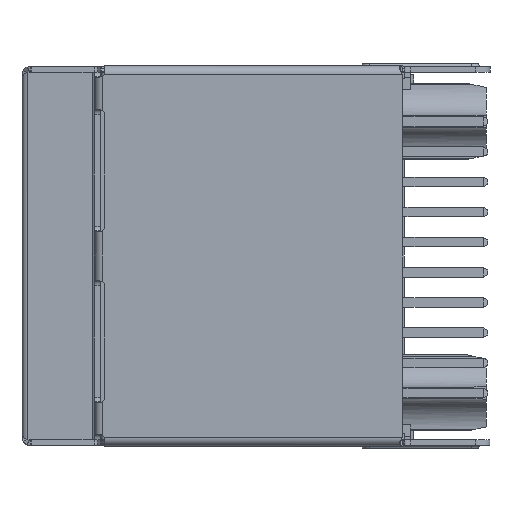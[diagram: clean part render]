
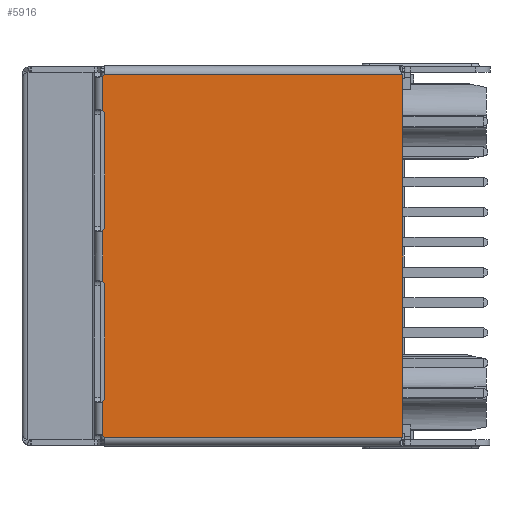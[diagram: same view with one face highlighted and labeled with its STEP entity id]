
A CAD part, left-side view. The second image highlights one B-rep face of the part: STEP entity #5916.
In plain terms, the highlighted planar face has unit normal (-1, 0, 0).
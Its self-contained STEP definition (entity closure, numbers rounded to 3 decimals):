
#181=CARTESIAN_POINT('',(-16.636,39.387,-5.9));
#182=DIRECTION('',(-1.,0.,0.));
#183=DIRECTION('',(0.,-0.707,-0.707));
#184=AXIS2_PLACEMENT_3D('',#181,#182,#183);
#186=CARTESIAN_POINT('',(-16.636,39.387,-1.2));
#187=DIRECTION('',(-1.,0.,0.));
#188=DIRECTION('',(0.,-1.,0.));
#189=AXIS2_PLACEMENT_3D('',#186,#187,#188);
#191=CARTESIAN_POINT('',(-16.636,39.387,1.3));
#192=DIRECTION('',(-1.,0.,0.));
#193=DIRECTION('',(0.,-0.707,-0.707));
#194=AXIS2_PLACEMENT_3D('',#191,#192,#193);
#196=CARTESIAN_POINT('',(-16.636,39.387,6.));
#197=DIRECTION('',(-1.,0.,0.));
#198=DIRECTION('',(0.,-1.,0.));
#199=AXIS2_PLACEMENT_3D('',#196,#197,#198);
#201=CARTESIAN_POINT('',(-16.636,39.387,7.785));
#202=DIRECTION('',(-1.,0.,0.));
#203=DIRECTION('',(0.,-0.707,-0.707));
#204=AXIS2_PLACEMENT_3D('',#201,#202,#203);
#206=CARTESIAN_POINT('',(-16.636,26.738,7.642));
#207=DIRECTION('',(1.,0.,0.));
#208=DIRECTION('',(0.,-0.923,0.385));
#209=AXIS2_PLACEMENT_3D('',#206,#207,#208);
#211=CARTESIAN_POINT('',(-16.636,26.738,-7.542));
#212=DIRECTION('',(1.,0.,0.));
#213=DIRECTION('',(0.,-1.,0.));
#214=AXIS2_PLACEMENT_3D('',#211,#212,#213);
#216=DIRECTION('',(0.,1.,0.));
#217=VECTOR('',#216,12.552);
#218=CARTESIAN_POINT('',(-16.636,26.6,-7.6));
#219=LINE('',#218,#217);
#220=CARTESIAN_POINT('',(-16.636,39.387,-7.685));
#221=DIRECTION('',(-1.,0.,0.));
#222=DIRECTION('',(0.,-0.94,0.34));
#223=AXIS2_PLACEMENT_3D('',#220,#221,#222);
#277=DIRECTION('',(0.,0.,1.));
#278=VECTOR('',#277,15.184);
#279=CARTESIAN_POINT('',(-16.636,26.588,-7.542));
#280=LINE('',#279,#278);
#366=DIRECTION('',(0.,1.,0.));
#367=VECTOR('',#366,12.552);
#368=CARTESIAN_POINT('',(-16.636,26.6,7.7));
#369=LINE('',#368,#367);
#799=DIRECTION('',(0.,0.,-1.));
#800=VECTOR('',#799,1.431);
#801=CARTESIAN_POINT('',(-16.636,39.21,7.608));
#802=LINE('',#801,#800);
#979=DIRECTION('',(0.,0.,-1.));
#980=VECTOR('',#979,1.431);
#981=CARTESIAN_POINT('',(-16.636,39.21,-6.077));
#982=LINE('',#981,#980);
#1025=DIRECTION('',(0.,0.,-1.));
#1026=VECTOR('',#1025,2.146);
#1027=CARTESIAN_POINT('',(-16.636,39.21,1.123));
#1028=LINE('',#1027,#1026);
#1064=DIRECTION('',(0.,0.,-1.));
#1065=VECTOR('',#1064,4.7);
#1066=CARTESIAN_POINT('',(-16.636,39.137,
-1.2));
#1067=LINE('',#1066,#1065);
#1080=DIRECTION('',(0.,0.,-1.));
#1081=VECTOR('',#1080,4.7);
#1082=CARTESIAN_POINT('',(-16.636,39.137,6.));
#1083=LINE('',#1082,#1081);
#4603=CARTESIAN_POINT('',(-16.636,26.6,
-7.6));
#4604=CARTESIAN_POINT('',(-16.636,39.152,
-7.6));
#4605=VERTEX_POINT('',#4603);
#4606=VERTEX_POINT('',#4604);
#4607=CARTESIAN_POINT('',(-16.636,39.21,
-6.077));
#4608=CARTESIAN_POINT('',(-16.636,39.137,
-5.9));
#4609=VERTEX_POINT('',#4607);
#4610=VERTEX_POINT('',#4608);
#4611=CARTESIAN_POINT('',(-16.636,39.137,
-1.2));
#4612=CARTESIAN_POINT('',(-16.636,39.21,
-1.023));
#4613=VERTEX_POINT('',#4611);
#4614=VERTEX_POINT('',#4612);
#4615=CARTESIAN_POINT('',(-16.636,39.21,1.123));
#4616=CARTESIAN_POINT('',(-16.636,39.137,1.3));
#4617=VERTEX_POINT('',#4615);
#4618=VERTEX_POINT('',#4616);
#4619=CARTESIAN_POINT('',(-16.636,39.137,6.));
#4620=CARTESIAN_POINT('',(-16.636,39.21,6.177));
#4621=VERTEX_POINT('',#4619);
#4622=VERTEX_POINT('',#4620);
#4623=CARTESIAN_POINT('',(-16.636,39.21,7.608));
#4624=CARTESIAN_POINT('',(-16.636,39.152,7.7));
#4625=VERTEX_POINT('',#4623);
#4626=VERTEX_POINT('',#4624);
#4627=CARTESIAN_POINT('',(-16.636,26.6,7.7));
#4628=CARTESIAN_POINT('',(-16.636,26.588,7.642));
#4629=VERTEX_POINT('',#4627);
#4630=VERTEX_POINT('',#4628);
#4631=CARTESIAN_POINT('',(-16.636,26.588,
-7.542));
#4632=VERTEX_POINT('',#4631);
#4633=CARTESIAN_POINT('',(-16.636,39.21,
-7.508));
#4634=VERTEX_POINT('',#4633);
#5878=CARTESIAN_POINT('',(-16.636,32.899,
0.05));
#5879=DIRECTION('',(1.,0.,0.));
#5880=DIRECTION('',(0.,-1.,0.));
#5881=AXIS2_PLACEMENT_3D('',#5878,#5879,#5880);
#5882=PLANE('',#5881);
#5884=ORIENTED_EDGE('',*,*,#5883,.T.);
#5886=ORIENTED_EDGE('',*,*,#5885,.F.);
#5888=ORIENTED_EDGE('',*,*,#5887,.T.);
#5890=ORIENTED_EDGE('',*,*,#5889,.F.);
#5892=ORIENTED_EDGE('',*,*,#5891,.T.);
#5894=ORIENTED_EDGE('',*,*,#5893,.F.);
#5896=ORIENTED_EDGE('',*,*,#5895,.T.);
#5898=ORIENTED_EDGE('',*,*,#5897,.F.);
#5900=ORIENTED_EDGE('',*,*,#5899,.T.);
#5902=ORIENTED_EDGE('',*,*,#5901,.F.);
#5904=ORIENTED_EDGE('',*,*,#5903,.T.);
#5906=ORIENTED_EDGE('',*,*,#5905,.F.);
#5908=ORIENTED_EDGE('',*,*,#5907,.T.);
#5909=ORIENTED_EDGE('',*,*,#5864,.T.);
#5911=ORIENTED_EDGE('',*,*,#5910,.T.);
#5913=ORIENTED_EDGE('',*,*,#5912,.F.);
#5914=EDGE_LOOP('',(#5884,#5886,#5888,#5890,#5892,#5894,#5896,#5898,#5900,#5902,
#5904,#5906,#5908,#5909,#5911,#5913));
#5915=FACE_OUTER_BOUND('',#5914,.F.);
#5916=ADVANCED_FACE('',(#5915),#5882,.F.);
#185=CIRCLE('',#184,0.25);
#190=CIRCLE('',#189,0.25);
#195=CIRCLE('',#194,0.25);
#200=CIRCLE('',#199,0.25);
#205=CIRCLE('',#204,0.25);
#210=CIRCLE('',#209,0.15);
#215=CIRCLE('',#214,0.15);
#224=CIRCLE('',#223,0.25);
#5864=EDGE_CURVE('',#4605,#4606,#219,.T.);
#5883=EDGE_CURVE('',#4609,#4610,#185,.T.);
#5885=EDGE_CURVE('',#4613,#4610,#1067,.T.);
#5887=EDGE_CURVE('',#4613,#4614,#190,.T.);
#5889=EDGE_CURVE('',#4617,#4614,#1028,.T.);
#5891=EDGE_CURVE('',#4617,#4618,#195,.T.);
#5893=EDGE_CURVE('',#4621,#4618,#1083,.T.);
#5895=EDGE_CURVE('',#4621,#4622,#200,.T.);
#5897=EDGE_CURVE('',#4625,#4622,#802,.T.);
#5899=EDGE_CURVE('',#4625,#4626,#205,.T.);
#5901=EDGE_CURVE('',#4629,#4626,#369,.T.);
#5903=EDGE_CURVE('',#4629,#4630,#210,.T.);
#5905=EDGE_CURVE('',#4632,#4630,#280,.T.);
#5907=EDGE_CURVE('',#4632,#4605,#215,.T.);
#5910=EDGE_CURVE('',#4606,#4634,#224,.T.);
#5912=EDGE_CURVE('',#4609,#4634,#982,.T.);
